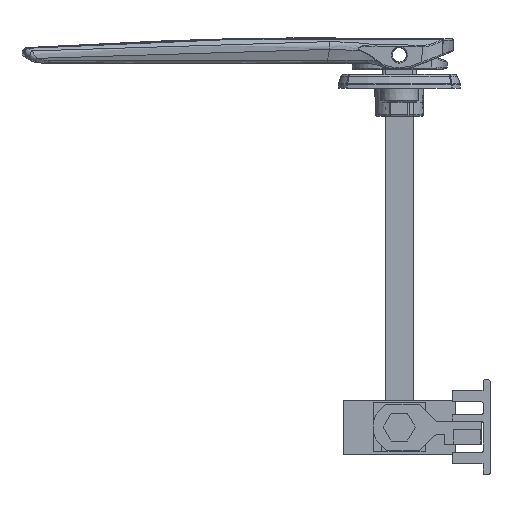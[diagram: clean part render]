
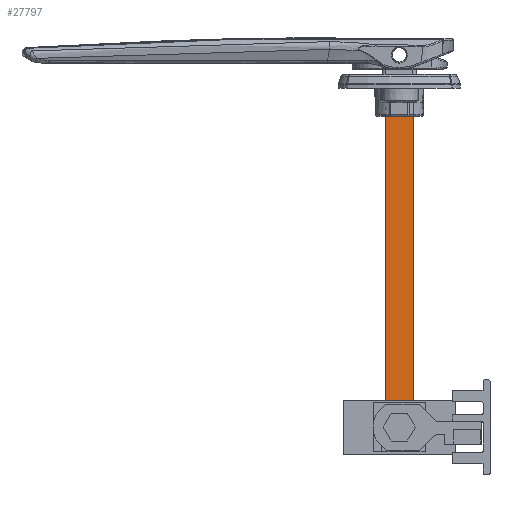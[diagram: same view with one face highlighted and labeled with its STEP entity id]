
A CAD part, front view. The second image highlights one B-rep face of the part: STEP entity #27797.
In plain terms, the highlighted planar face has unit normal (0, -1, 0) as drawn and (0, 1, 0) by its records, which use the part's own axes.
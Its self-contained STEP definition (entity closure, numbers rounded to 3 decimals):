
#1940 = PLANE ( 'NONE',  #2737 ) ;
#2737 = AXIS2_PLACEMENT_3D ( 'NONE', #23813, #29191, #9304 ) ;
#5376 = VECTOR ( 'NONE', #29607, 1000. ) ;
#6753 = CARTESIAN_POINT ( 'NONE',  ( 4., 4., 0.5 ) ) ;
#7025 = EDGE_CURVE ( 'NONE', #25157, #26874, #17248, .T. ) ;
#8196 = CARTESIAN_POINT ( 'NONE',  ( 4., 4., 99.5 ) ) ;
#8643 = FACE_OUTER_BOUND ( 'NONE', #21579, .T. ) ;
#9304 = DIRECTION ( 'NONE',  ( 0., 0., -1. ) ) ;
#11897 = EDGE_CURVE ( 'NONE', #30939, #24499, #24506, .T. ) ;
#13127 = ORIENTED_EDGE ( 'NONE', *, *, #27639, .T. ) ;
#13313 = LINE ( 'NONE', #23911, #24943 ) ;
#14312 = DIRECTION ( 'NONE',  ( 0., 0., -1. ) ) ;
#17248 = LINE ( 'NONE', #19531, #23395 ) ;
#17325 = CARTESIAN_POINT ( 'NONE',  ( 4., 4., 100. ) ) ;
#17739 = ORIENTED_EDGE ( 'NONE', *, *, #26631, .T. ) ;
#19531 = CARTESIAN_POINT ( 'NONE',  ( -4., 4., 100. ) ) ;
#19532 = VECTOR ( 'NONE', #24180, 1000. ) ;
#20317 = CARTESIAN_POINT ( 'NONE',  ( -4., 4., 0.5 ) ) ;
#21579 = EDGE_LOOP ( 'NONE', ( #28145, #13127, #24206, #17739 ) ) ;
#21972 = CARTESIAN_POINT ( 'NONE',  ( -4., 4., 0.5 ) ) ;
#23395 = VECTOR ( 'NONE', #14312, 1000. ) ;
#23813 = CARTESIAN_POINT ( 'NONE',  ( -4., 4., 100. ) ) ;
#23911 = CARTESIAN_POINT ( 'NONE',  ( 4., 4., 99.5 ) ) ;
#24180 = DIRECTION ( 'NONE',  ( 0., 0., -1. ) ) ;
#24206 = ORIENTED_EDGE ( 'NONE', *, *, #7025, .F. ) ;
#24499 = VERTEX_POINT ( 'NONE', #6753 ) ;
#24506 = LINE ( 'NONE', #17325, #19532 ) ;
#24943 = VECTOR ( 'NONE', #28810, 1000. ) ;
#25157 = VERTEX_POINT ( 'NONE', #27096 ) ;
#26631 = EDGE_CURVE ( 'NONE', #25157, #30939, #13313, .T. ) ;
#26874 = VERTEX_POINT ( 'NONE', #21972 ) ;
#27096 = CARTESIAN_POINT ( 'NONE',  ( -4., 4., 99.5 ) ) ;
#27489 = LINE ( 'NONE', #20317, #5376 ) ;
#27639 = EDGE_CURVE ( 'NONE', #24499, #26874, #27489, .T. ) ;
#27797 = ADVANCED_FACE ( 'NONE', ( #8643 ), #1940, .F. ) ;
#28145 = ORIENTED_EDGE ( 'NONE', *, *, #11897, .T. ) ;
#28810 = DIRECTION ( 'NONE',  ( 1., 0., 0. ) ) ;
#29191 = DIRECTION ( 'NONE',  ( 0., -1., 0. ) ) ;
#29607 = DIRECTION ( 'NONE',  ( -1., 0., 0. ) ) ;
#30939 = VERTEX_POINT ( 'NONE', #8196 ) ;
